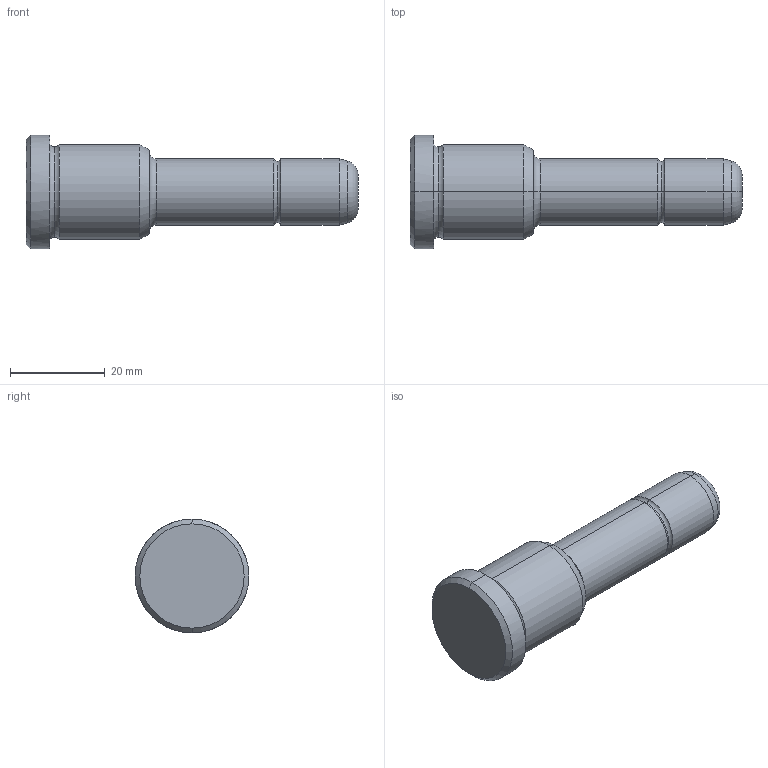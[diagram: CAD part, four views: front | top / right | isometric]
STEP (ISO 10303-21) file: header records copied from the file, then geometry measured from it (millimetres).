
FILE_DESCRIPTION(('CATIA V5 STEP Exchange'),'2;1');
FILE_NAME('C:\Users\Utente\Desktop\IO LAVORO\3D X SITO CF\X SITO\PLASTICA\351\351-14X26X70.stp','2021-08-18T09:56:06+00:00',('none'),('none'),'CATIA Version 5 Release 20 GA (IN-10)','CATIA V5 STEP AP203','none');
FILE_SCHEMA(('CONFIG_CONTROL_DESIGN'));
Length unit declared in the file: millimetre
Products named in the file (1): 351-14X26X70
Bounding box: 70 x 24 x 24 mm (x, y, z)
Volume: 15356.2 mm3; surface area: 4358 mm2
Topology: 1 solids, 1 shells, 30 faces, 86 edges, 60 vertices
Faces by surface type: torus 12, cylinder 8, cone 6, plane 4
Entity records: 1112 total; most frequent: CARTESIAN_POINT 289, ORIENTED_EDGE 172, DIRECTION 138, AXIS2_PLACEMENT_3D 95, EDGE_CURVE 86, CIRCLE 64, VERTEX_POINT 60, EDGE_LOOP 32
